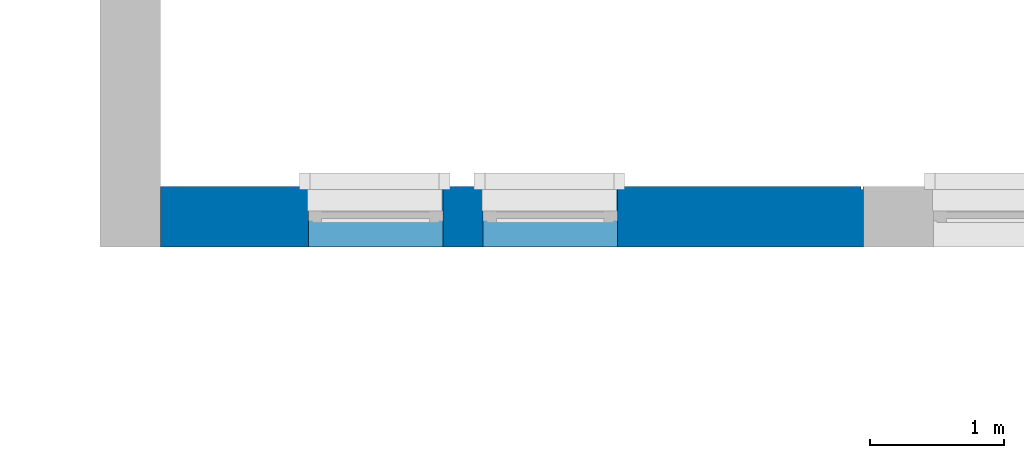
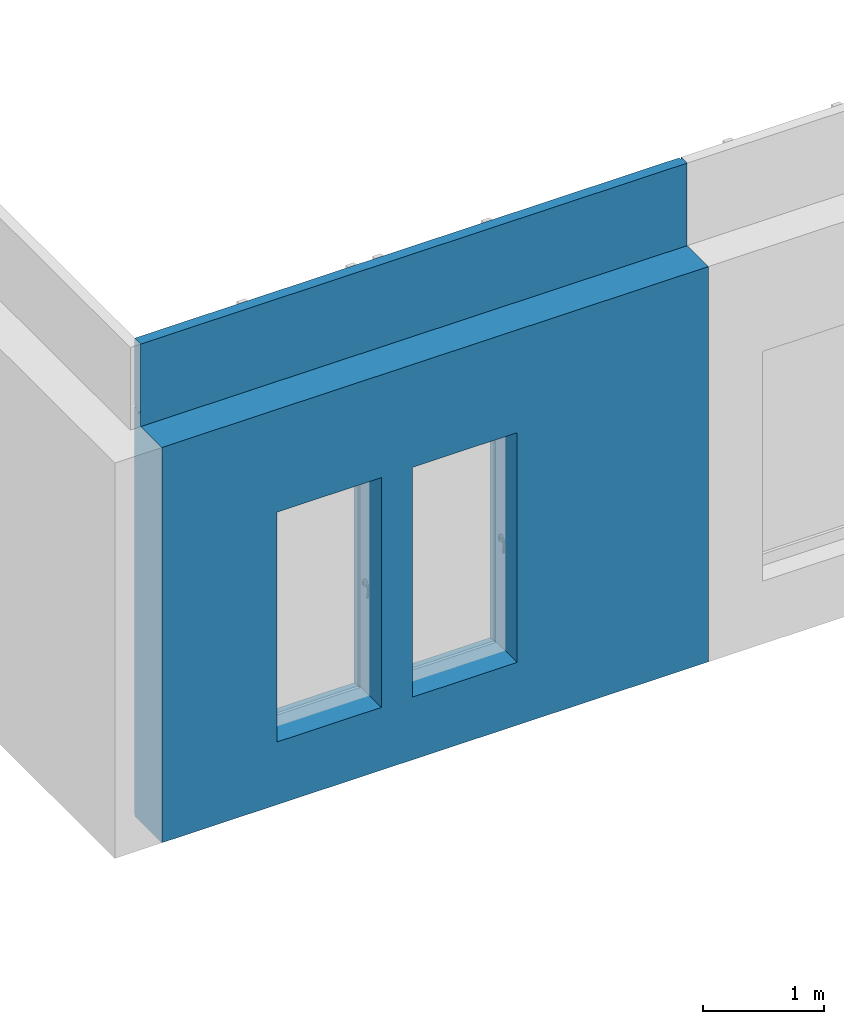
# One storey, part 10 of 33: 1 wall, 6 openings.
"""IFC2X3 building model written with IfcOpenShell, lengths in millimetres."""

from ifc_helpers import new_model, entity, si_unit, converted_unit, derived_unit, direction, frame, frame_2d, origin, origin_2d_with_axis, place, context, subcontext, project, spatial, polyline, rectangle, extrude, clip, bounded_halfspace, faceted_brep, material, layer, layer_set, layer_usage, type_object, element, save


model = new_model("IFC2X3")

# Units and contexts
model_context = context("Model", 3, precision=0.01, world=origin(), true_north=direction((6.12303176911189e-17, 1.0)))
body_context = subcontext(model_context, "Body", "Model", "MODEL_VIEW")
ifc_project = project(units=[si_unit("LENGTHUNIT", "METRE", prefix="MILLI"), si_unit("AREAUNIT", "SQUARE_METRE"), si_unit("VOLUMEUNIT", "CUBIC_METRE"), converted_unit("PLANEANGLEUNIT", "DEGREE", entity("IfcRatioMeasure", 0.0174532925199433), si_unit("PLANEANGLEUNIT", "RADIAN"), dimensions=[0, 0, 0, 0, 0, 0, 0]), si_unit("MASSUNIT", "GRAM", prefix="KILO"), derived_unit("MASSDENSITYUNIT", [(si_unit("MASSUNIT", "GRAM", prefix="KILO"), 1), (si_unit("LENGTHUNIT", "METRE"), -3)]), si_unit("TIMEUNIT", "SECOND"), si_unit("FREQUENCYUNIT", "HERTZ"), si_unit("THERMODYNAMICTEMPERATUREUNIT", "DEGREE_CELSIUS"), derived_unit("THERMALTRANSMITTANCEUNIT", [(si_unit("MASSUNIT", "GRAM", prefix="KILO"), 1), (si_unit("THERMODYNAMICTEMPERATUREUNIT", "KELVIN"), -1), (si_unit("TIMEUNIT", "SECOND"), -3)]), derived_unit("VOLUMETRICFLOWRATEUNIT", [(si_unit("LENGTHUNIT", "METRE"), 3), (si_unit("TIMEUNIT", "SECOND"), -1)]), si_unit("ELECTRICCURRENTUNIT", "AMPERE"), si_unit("ELECTRICVOLTAGEUNIT", "VOLT"), si_unit("POWERUNIT", "WATT"), si_unit("FORCEUNIT", "NEWTON", prefix="KILO"), si_unit("ILLUMINANCEUNIT", "LUX"), si_unit("LUMINOUSFLUXUNIT", "LUMEN"), si_unit("LUMINOUSINTENSITYUNIT", "CANDELA"), derived_unit("USERDEFINED", [(si_unit("MASSUNIT", "GRAM", prefix="KILO"), -1), (si_unit("LENGTHUNIT", "METRE"), -2), (si_unit("TIMEUNIT", "SECOND"), 3), (si_unit("LUMINOUSFLUXUNIT", "LUMEN"), 1)]), derived_unit("LINEARVELOCITYUNIT", [(si_unit("LENGTHUNIT", "METRE"), 1), (si_unit("TIMEUNIT", "SECOND"), -1)]), si_unit("PRESSUREUNIT", "PASCAL"), derived_unit("USERDEFINED", [(si_unit("LENGTHUNIT", "METRE"), -2), (si_unit("MASSUNIT", "GRAM", prefix="KILO"), 1), (si_unit("TIMEUNIT", "SECOND"), -2)])], contexts=[model_context])

# Site, building, storey
site_placement = place(None, origin())
site = spatial("IfcSite", under=ifc_project, at=site_placement, Name="Default", CompositionType="ELEMENT")
building_placement = place(site_placement, origin())
building = spatial("IfcBuilding", under=site, at=building_placement, CompositionType="ELEMENT")
storey_placement = place(building_placement, frame((0.0, 0.0, 4000.0)))
storey = spatial("IfcBuildingStorey", under=building, at=storey_placement, Name="2. KORRUS", CompositionType="ELEMENT", Elevation=4000.0)

# Wall, openings
ifc_material_1 = material(Name="RECKLI 1 173 THUR by Polantis 2016-toon3")
ifc_layer_1 = layer(ifc_material_1, 100.0)
ifc_material_2 = material(Name="Soojusisolatsioon EPS")
ifc_layer_2 = layer(ifc_material_2, 200.0)
ifc_material_3 = material(Name="r/b")
ifc_layer_3 = layer(ifc_material_3, 150.0)
ifc_layer_set = layer_set([ifc_layer_1, ifc_layer_2, ifc_layer_3], Name="Basic Wall:VS-1_toon-b")
ifc_layer_usage = layer_usage(ifc_layer_set, "AXIS2", "NEGATIVE", 225.0)
wall_type = type_object("IfcWallType", Name="Basic Wall:VS-1_toon-b", PredefinedType="STANDARD", material=ifc_layer_set)
wall_placement = place(storey_placement, frame((9650.0, 21725.0517807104, -135.0)))
wall = element("IfcWallStandardCase", 1, at=wall_placement, inside=storey, type_object=wall_type, material=ifc_layer_usage, Name="Basic Wall:VS-1_toon-b", ObjectType="Basic Wall:VS-1_toon-b", context=body_context, shape_type="Clipping", body=[
    clip(clip(extrude(rectangle(XDim=5230.3475962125, YDim=450.000000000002, at=frame_2d((2615.17379810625, -2.55795384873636e-13), x_axis=(-1.0, 0.0))), origin(), (0.0, 0.0, 1.0), 4835.0), bounded_halfspace(frame((0.0, -225.0, 4000.0), z_axis=(0.0, 0.0, 1.0), x_axis=(0.0, 1.0, 0.0)), False, frame((0.0, -225.0, 4000.0)), polyline([(0.0, 0.0), (5230.3475962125, 0.0), (5230.3475962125, 350.0), (0.0, 350.0), (0.0, 0.0)]))), bounded_halfspace(frame((0.0, -225.0, 4000.0), z_axis=(0.0, 0.0, 1.0), x_axis=(0.0, 1.0, 0.0)), False, frame((0.0, -225.0, 4000.0)), polyline([(0.0, 0.0), (5230.3475962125, 0.0), (5230.3475962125, 350.0), (0.0, 350.0), (0.0, 0.0)]))),
])
opening_1_placement = place(wall_placement, origin())
element("IfcOpeningElement", 2, at=opening_1_placement, cuts=wall, Name="Basic Wall:VS-1_toon-b", ObjectType="Opening", context=body_context, shape_type="SweptSolid", body=[
    extrude(rectangle(XDim=3199.99999999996, YDim=3600.0, at=frame_2d((0.0, 0.0), x_axis=(0.0, 1.0))), frame((2900.0, -1749.0, -2265.0), z_axis=(0.0, 1.0, 0.0), x_axis=(-1.0, 0.0, 0.0)), (0.0, 0.0, 1.0), 3048.0),
])
opening_2_placement = place(wall_placement, origin())
element("IfcOpeningElement", 3, at=opening_2_placement, cuts=wall, Name="Basic Wall:VS-1_toon-b", ObjectType="Recess", context=body_context, shape_type="SweptSolid", body=[
    extrude(rectangle(XDim=4265.0, YDim=16.0000000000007, at=origin_2d_with_axis()), frame((5220.0, 205.0, -2132.5), z_axis=(0.0, 1.0, 0.0), x_axis=(0.0, 0.0, 1.0)), (0.0, 0.0, 1.0), 19.9999999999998),
    extrude(rectangle(XDim=4835.0, YDim=16.0000000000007, at=frame_2d((2.27373675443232e-13, 0.0), x_axis=(1.0, 0.0))), frame((5220.0, 205.0, 2417.5), z_axis=(0.0, 1.0, 0.0), x_axis=(0.0, 0.0, 1.0)), (0.0, 0.0, 1.0), 19.9999999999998),
])
opening_3_placement = place(wall_placement, frame((-10100.0, -22175.0517807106, 4.0)))
element("IfcOpeningElement", 4, at=opening_3_placement, cuts=wall, Name="Basic Wall:VS-1_toon-b", ObjectType="Opening", context=body_context, shape_type="Brep", body=[
    faceted_brep([(11850.0, 20.0, 16.0), (11850.0, 0.0, 16.0), (11850.0, 0.0, 0.0), (11850.0, 20.0, 0.0), (4260.0, 20.0, 16.0), (4260.0, 20.0, 0.0), (4260.0, 0.0, 0.0), (4260.0, 0.0, 16.0)], [[[0, 1, 2, 3]], [[4, 5, 6, 7]], [[1, 0, 4, 7]], [[2, 1, 7, 6]], [[3, 2, 6, 5]], [[0, 3, 5, 4]]]),
    faceted_brep([(20.0, 28480.0, 16.0), (20.0, 28480.0, 0.0), (0.0, 28500.0, 0.0), (0.0, 28500.0, 16.0), (20.0, 23740.0, 16.0), (0.0, 23740.0, 16.0), (0.0, 23740.0, 0.0), (20.0, 23740.0, 0.0)], [[[0, 1, 2, 3]], [[4, 5, 6, 7]], [[1, 0, 4, 7]], [[2, 1, 7, 6]], [[3, 2, 6, 5]], [[0, 3, 5, 4]]]),
    faceted_brep([(10080.0, 22380.0517807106, 16.0), (10100.0, 22400.0517807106, 16.0), (10100.0, 22400.0517807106, 0.0), (10080.0, 22380.0517807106, 0.0), (15330.3475962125, 22380.0517807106, 16.0), (15330.3475962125, 22380.0517807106, 0.0), (15330.3475962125, 22400.0517807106, 0.0), (15330.3475962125, 22400.0517807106, 16.0)], [[[0, 1, 2, 3]], [[4, 5, 6, 7]], [[1, 0, 4, 7]], [[2, 1, 7, 6]], [[3, 2, 6, 5]], [[0, 3, 5, 4]]]),
    faceted_brep([(20.0, 28480.0, 16.0), (0.0, 28500.0, 16.0), (0.0, 28500.0, 0.0), (20.0, 28480.0, 0.0), (4360.0, 28480.0, 16.0), (4360.0, 28480.0, 0.0), (4360.0, 28500.0, 0.0), (4360.0, 28500.0, 16.0)], [[[0, 1, 2, 3]], [[4, 5, 6, 7]], [[1, 0, 4, 7]], [[2, 1, 7, 6]], [[3, 2, 6, 5]], [[0, 3, 5, 4]]]),
    faceted_brep([(40380.0, 20.0, 16.0), (40400.0, 0.0, 16.0), (40400.0, 0.0, 0.0), (40380.0, 20.0, 0.0), (35250.0, 20.0, 16.0), (35250.0, 20.0, 0.0), (35250.0, 0.0, 0.0), (35250.0, 0.0, 16.0)], [[[0, 1, 2, 3]], [[4, 5, 6, 7]], [[1, 0, 4, 7]], [[2, 1, 7, 6]], [[3, 2, 6, 5]], [[0, 3, 5, 4]]]),
    faceted_brep([(34420.1035702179, 22380.0517807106, 16.0), (34420.1035702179, 22400.0517807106, 16.0), (34420.1035702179, 22400.0517807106, 0.0), (34420.1035702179, 22380.0517807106, 0.0), (40380.0, 22380.0517807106, 16.0), (40380.0, 22380.0517807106, 0.0), (40400.0, 22400.0517807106, 0.0), (40400.0, 22400.0517807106, 16.0)], [[[0, 1, 2, 3]], [[4, 5, 6, 7]], [[1, 0, 4, 7]], [[2, 1, 7, 6]], [[3, 2, 6, 5]], [[0, 3, 5, 4]]]),
    faceted_brep([(29113.2161487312, 22380.0517807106, 16.0), (29113.2161487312, 22400.0517807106, 16.0), (29113.2161487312, 22400.0517807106, 0.0), (29113.2161487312, 22380.0517807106, 0.0), (34420.1035702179, 22380.0517807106, 16.0), (34420.1035702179, 22380.0517807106, 0.0), (34420.1035702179, 22400.0517807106, 0.0), (34420.1035702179, 22400.0517807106, 16.0)], [[[0, 1, 2, 3]], [[4, 5, 6, 7]], [[1, 0, 4, 7]], [[2, 1, 7, 6]], [[3, 2, 6, 5]], [[0, 3, 5, 4]]]),
    faceted_brep([(10080.0, 28480.0, 16.0), (10100.0, 28500.0, 16.0), (10100.0, 28500.0, 0.0), (10080.0, 28480.0, 0.0), (10080.0, 22380.0517807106, 16.0), (10080.0, 22380.0517807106, 0.0), (10100.0, 22400.0517807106, 0.0), (10100.0, 22400.0517807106, 16.0)], [[[0, 1, 2, 3]], [[4, 5, 6, 7]], [[1, 0, 4, 7]], [[2, 1, 7, 6]], [[3, 2, 6, 5]], [[0, 3, 5, 4]]]),
    faceted_brep([(4260.0, 20.0, 16.0), (4260.0, 0.0, 16.0), (4260.0, 0.0, 0.0), (4260.0, 20.0, 0.0), (0.0, 20.0, 16.0), (0.0, 20.0, 0.0), (0.0, 0.0, 0.0), (0.0, 0.0, 16.0)], [[[0, 1, 2, 3]], [[4, 5, 6, 7]], [[1, 0, 4, 7]], [[2, 1, 7, 6]], [[3, 2, 6, 5]], [[0, 3, 5, 4]]]),
    faceted_brep([(40380.0, 4865.0, 16.0), (40400.0, 4865.0, 16.0), (40400.0, 4865.0, 0.0), (40380.0, 4865.0, 0.0), (40380.0, 20.0, 16.0), (40380.0, 20.0, 0.0), (40400.0, 0.0, 0.0), (40400.0, 0.0, 16.0)], [[[0, 1, 2, 3]], [[4, 5, 6, 7]], [[1, 0, 4, 7]], [[2, 1, 7, 6]], [[3, 2, 6, 5]], [[0, 3, 5, 4]]]),
    faceted_brep([(40380.0, 9093.33000000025, 16.0), (40400.0, 9093.33000000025, 16.0), (40400.0, 9093.33000000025, 0.0), (40380.0, 9093.33000000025, 0.0), (40380.0, 4865.0, 16.0), (40380.0, 4865.0, 0.0), (40400.0, 4865.0, 0.0), (40400.0, 4865.0, 16.0)], [[[0, 1, 2, 3]], [[4, 5, 6, 7]], [[1, 0, 4, 7]], [[2, 1, 7, 6]], [[3, 2, 6, 5]], [[0, 3, 5, 4]]]),
    faceted_brep([(40380.0, 13210.0, 16.0), (40400.0, 13210.0, 16.0), (40400.0, 13210.0, 0.0), (40380.0, 13210.0, 0.0), (40380.0, 9093.33000000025, 16.0), (40380.0, 9093.33000000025, 0.0), (40400.0, 9093.33000000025, 0.0), (40400.0, 9093.33000000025, 16.0)], [[[0, 1, 2, 3]], [[4, 5, 6, 7]], [[1, 0, 4, 7]], [[2, 1, 7, 6]], [[3, 2, 6, 5]], [[0, 3, 5, 4]]]),
    faceted_brep([(40380.0, 16240.0, 16.0), (40400.0, 16240.0, 16.0), (40400.0, 16240.0, 0.0), (40380.0, 16240.0, 0.0), (40380.0, 13210.0, 16.0), (40380.0, 13210.0, 0.0), (40400.0, 13210.0, 0.0), (40400.0, 13210.0, 16.0)], [[[0, 1, 2, 3]], [[4, 5, 6, 7]], [[1, 0, 4, 7]], [[2, 1, 7, 6]], [[3, 2, 6, 5]], [[0, 3, 5, 4]]]),
    faceted_brep([(40380.0, 22380.0517807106, 16.0), (40400.0, 22400.0517807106, 16.0), (40400.0, 22400.0517807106, 0.0), (40380.0, 22380.0517807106, 0.0), (40380.0, 16240.0, 16.0), (40380.0, 16240.0, 0.0), (40400.0, 16240.0, 0.0), (40400.0, 16240.0, 16.0)], [[[0, 1, 2, 3]], [[4, 5, 6, 7]], [[1, 0, 4, 7]], [[2, 1, 7, 6]], [[3, 2, 6, 5]], [[0, 3, 5, 4]]]),
    faceted_brep([(22535.0, 22380.0517807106, 16.0), (22535.0, 22400.0517807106, 16.0), (22535.0, 22400.0517807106, 0.0), (22535.0, 22380.0517807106, 0.0), (29113.2161487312, 22380.0517807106, 16.0), (29113.2161487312, 22380.0517807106, 0.0), (29113.2161487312, 22400.0517807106, 0.0), (29113.2161487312, 22400.0517807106, 16.0)], [[[0, 1, 2, 3]], [[4, 5, 6, 7]], [[1, 0, 4, 7]], [[2, 1, 7, 6]], [[3, 2, 6, 5]], [[0, 3, 5, 4]]]),
    faceted_brep([(18703.3528910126, 22380.0517807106, 16.0), (18703.3528910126, 22400.0517807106, 16.0), (18703.3528910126, 22400.0517807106, 0.0), (18703.3528910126, 22380.0517807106, 0.0), (22535.0, 22380.0517807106, 16.0), (22535.0, 22380.0517807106, 0.0), (22535.0, 22400.0517807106, 0.0), (22535.0, 22400.0517807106, 16.0)], [[[0, 1, 2, 3]], [[4, 5, 6, 7]], [[1, 0, 4, 7]], [[2, 1, 7, 6]], [[3, 2, 6, 5]], [[0, 3, 5, 4]]]),
    faceted_brep([(15330.3475962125, 22380.0517807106, 16.0), (15330.3475962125, 22400.0517807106, 16.0), (15330.3475962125, 22400.0517807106, 0.0), (15330.3475962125, 22380.0517807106, 0.0), (18703.3528910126, 22380.0517807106, 16.0), (18703.3528910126, 22380.0517807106, 0.0), (18703.3528910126, 22400.0517807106, 0.0), (18703.3528910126, 22400.0517807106, 16.0)], [[[0, 1, 2, 3]], [[4, 5, 6, 7]], [[1, 0, 4, 7]], [[2, 1, 7, 6]], [[3, 2, 6, 5]], [[0, 3, 5, 4]]]),
    faceted_brep([(4360.0, 28480.0, 16.0), (4360.0, 28500.0, 16.0), (4360.0, 28500.0, 0.0), (4360.0, 28480.0, 0.0), (10080.0, 28480.0, 16.0), (10080.0, 28480.0, 0.0), (10100.0, 28500.0, 0.0), (10100.0, 28500.0, 16.0)], [[[0, 1, 2, 3]], [[4, 5, 6, 7]], [[1, 0, 4, 7]], [[2, 1, 7, 6]], [[3, 2, 6, 5]], [[0, 3, 5, 4]]]),
    faceted_brep([(20.0, 23740.0, 16.0), (20.0, 23740.0, 0.0), (0.0, 23740.0, 0.0), (0.0, 23740.0, 16.0), (20.0, 16890.0006972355, 16.0), (0.0, 16890.0006972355, 16.0), (0.0, 16890.0006972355, 0.0), (20.0, 16890.0006972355, 0.0)], [[[0, 1, 2, 3]], [[4, 5, 6, 7]], [[1, 0, 4, 7]], [[2, 1, 7, 6]], [[3, 2, 6, 5]], [[0, 3, 5, 4]]]),
    faceted_brep([(20.0, 16890.0006972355, 16.0), (20.0, 16890.0006972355, 0.0), (0.0, 16890.0006972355, 0.0), (0.0, 16890.0006972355, 16.0), (20.0, 13460.0, 16.0), (0.0, 13460.0, 16.0), (0.0, 13460.0, 0.0), (20.0, 13460.0, 0.0)], [[[0, 1, 2, 3]], [[4, 5, 6, 7]], [[1, 0, 4, 7]], [[2, 1, 7, 6]], [[3, 2, 6, 5]], [[0, 3, 5, 4]]]),
])
opening_4_placement = place(wall_placement, origin())
element("IfcOpeningElement", 5, at=opening_4_placement, cuts=wall, Name="Basic Wall:VS-1_toon-b", ObjectType="Opening", context=body_context, shape_type="SweptSolid", body=[
    extrude(rectangle(XDim=15.9999999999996, YDim=7590.0, at=frame_2d((0.0, -5.40900657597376e-13), x_axis=(0.0, 1.0))), frame((-2045.0, -22175.0517807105, 4147.0), z_axis=(0.0, 1.0, 0.0), x_axis=(-1.0, 0.0, 0.0)), (0.0, 0.0, 1.0), 20.0),
    extrude(rectangle(XDim=15.9999999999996, YDim=20.0, at=frame_2d((5.40900657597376e-13, -3.37507799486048e-14), x_axis=(1.0, 0.0))), frame((-10090.0, 1564.94821928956, 4147.0), z_axis=(0.0, 1.0, 0.0), x_axis=(0.0, 0.0, -1.0)), (0.0, 0.0, 1.0), 4660.0),
    extrude(rectangle(XDim=15.9999999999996, YDim=5230.3475962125, at=frame_2d((0.0, 5.40900657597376e-13), x_axis=(0.0, 1.0))), frame((2615.17379810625, 205.0, 4147.0), z_axis=(0.0, 1.0, 0.0), x_axis=(1.0, 0.0, 0.0)), (0.0, 0.0, 1.0), 19.9999999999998),
    extrude(rectangle(XDim=15.9999999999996, YDim=4360.0, at=frame_2d((0.0, 5.40900657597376e-13), x_axis=(0.0, 1.0))), frame((-7920.0, 6304.94821928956, 4147.0), z_axis=(0.0, 1.0, 0.0), x_axis=(1.0, 0.0, 0.0)), (0.0, 0.0, 1.0), 19.9999999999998),
    extrude(rectangle(XDim=15.9999999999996, YDim=5050.0, at=frame_2d((2.27373675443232e-12, 0.0), x_axis=(0.0, 1.0))), frame((27675.0, -22175.0517807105, 4147.0), z_axis=(0.0, 1.0, 0.0), x_axis=(-1.0, 0.0, 0.0)), (0.0, 0.0, 1.0), 20.0),
    extrude(rectangle(XDim=15.9999999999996, YDim=5979.89642978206, at=frame_2d((-2.27373675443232e-12, 0.0), x_axis=(0.0, 1.0))), frame((27310.051785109, 205.0, 4147.0), z_axis=(0.0, 1.0, 0.0), x_axis=(1.0, 0.0, 0.0)), (0.0, 0.0, 1.0), 19.9999999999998),
    extrude(rectangle(XDim=15.9999999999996, YDim=5306.88742148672, at=frame_2d((2.04636307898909e-12, 5.40900657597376e-13), x_axis=(0.0, 1.0))), frame((21666.6598594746, 205.0, 4147.0), z_axis=(0.0, 1.0, 0.0), x_axis=(1.0, 0.0, 0.0)), (0.0, 0.0, 1.0), 19.9999999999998),
    extrude(rectangle(XDim=15.9999999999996, YDim=19.9999999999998, at=frame_2d((0.0, 5.40900657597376e-13), x_axis=(0.0, 1.0))), frame((-10.0, 125.0, 4147.0), z_axis=(0.0, 1.0, 0.0), x_axis=(1.0, 0.0, 0.0)), (0.0, 0.0, 1.0), 6099.94821928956),
    extrude(rectangle(XDim=15.9999999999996, YDim=4160.00000000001, at=frame_2d((0.0, -5.40900657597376e-13), x_axis=(0.0, 1.0))), frame((-7920.0, -22175.0517807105, 4147.0), z_axis=(0.0, 1.0, 0.0), x_axis=(-1.0, 0.0, 0.0)), (0.0, 0.0, 1.0), 20.0),
    extrude(rectangle(XDim=15.9999999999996, YDim=20.0000000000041, at=frame_2d((4.33164615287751e-12, 5.40900657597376e-13), x_axis=(0.0, 1.0))), frame((30290.0, -22175.0517807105, 4147.0), z_axis=(0.0, 1.0, 0.0), x_axis=(1.0, 0.0, 0.0)), (0.0, 0.0, 1.0), 4865.0),
    extrude(rectangle(XDim=15.9999999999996, YDim=20.0000000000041, at=frame_2d((-4.33164615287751e-12, -5.40900657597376e-13), x_axis=(0.0, 1.0))), frame((30290.0, -17310.0517807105, 4147.0), z_axis=(0.0, 1.0, 0.0), x_axis=(1.0, 0.0, 0.0)), (0.0, 0.0, 1.0), 4228.33000000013),
    extrude(rectangle(XDim=15.9999999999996, YDim=20.0000000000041, at=frame_2d((-4.33164615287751e-12, -5.40900657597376e-13), x_axis=(0.0, 1.0))), frame((30290.0, -13081.7217807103, 4147.0), z_axis=(0.0, 1.0, 0.0), x_axis=(1.0, 0.0, 0.0)), (0.0, 0.0, 1.0), 4236.66999997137),
    extrude(rectangle(XDim=15.9999999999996, YDim=20.0000000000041, at=frame_2d((4.33164615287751e-12, 5.40900657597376e-13), x_axis=(0.0, 1.0))), frame((30290.0, -8845.05178073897, 4147.0), z_axis=(0.0, 1.0, 0.0), x_axis=(1.0, 0.0, 0.0)), (0.0, 0.0, 1.0), 2910.00000002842),
    extrude(rectangle(XDim=15.9999999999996, YDim=20.0000000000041, at=frame_2d((-4.33164615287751e-12, 5.40900657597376e-13), x_axis=(0.0, 1.0))), frame((30290.0, -5935.05178071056, 4147.0), z_axis=(0.0, 1.0, 0.0), x_axis=(1.0, 0.0, 0.0)), (0.0, 0.0, 1.0), 6060.05178071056),
    extrude(rectangle(XDim=15.9999999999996, YDim=3831.64710898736, at=frame_2d((1.13686837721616e-12, 5.40900657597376e-13), x_axis=(0.0, 1.0))), frame((10519.1764455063, 205.0, 4147.0), z_axis=(0.0, 1.0, 0.0), x_axis=(1.0, 0.0, 0.0)), (0.0, 0.0, 1.0), 19.9999999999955),
    extrude(rectangle(XDim=15.9999999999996, YDim=3373.00529480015, at=frame_2d((0.0, 5.40900657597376e-13), x_axis=(0.0, 1.0))), frame((6916.85024361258, 205.0, 4147.0), z_axis=(0.0, 1.0, 0.0), x_axis=(1.0, 0.0, 0.0)), (0.0, 0.0, 1.0), 19.9999999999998),
    extrude(rectangle(XDim=15.9999999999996, YDim=5739.99999999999, at=frame_2d((-2.27373675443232e-13, 5.40900657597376e-13), x_axis=(0.0, 1.0))), frame((-2870.0, 6304.94821928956, 4147.0), z_axis=(0.0, 1.0, 0.0), x_axis=(1.0, 0.0, 0.0)), (0.0, 0.0, 1.0), 19.9999999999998),
    extrude(rectangle(XDim=15.9999999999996, YDim=20.0, at=frame_2d((5.40900657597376e-13, -3.37507799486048e-14), x_axis=(1.0, 0.0))), frame((-10090.0, -5285.05108347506, 4147.0), z_axis=(0.0, 1.0, 0.0), x_axis=(0.0, 0.0, -1.0)), (0.0, 0.0, 1.0), 6849.99930276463),
    extrude(rectangle(XDim=15.9999999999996, YDim=20.0, at=frame_2d((5.40900657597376e-13, 3.37507799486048e-14), x_axis=(1.0, 0.0))), frame((-10090.0, -8715.05178073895, 4147.0), z_axis=(0.0, 1.0, 0.0), x_axis=(0.0, 0.0, -1.0)), (0.0, 0.0, 1.0), 3430.00069726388),
    extrude(rectangle(XDim=15.9999999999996, YDim=6578.21614873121, at=frame_2d((0.0, 5.40900657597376e-13), x_axis=(0.0, 1.0))), frame((15724.1080743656, 205.0, 4147.0), z_axis=(0.0, 1.0, 0.0), x_axis=(1.0, 0.0, 0.0)), (0.0, 0.0, 1.0), 19.9999999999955),
    extrude(rectangle(XDim=15.9999999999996, YDim=4110.0, at=frame_2d((1.13686837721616e-12, -5.40900657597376e-13), x_axis=(0.0, 1.0))), frame((3805.0, -22175.0517807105, 4147.0), z_axis=(0.0, 1.0, 0.0), x_axis=(-1.0, 0.0, 0.0)), (0.0, 0.0, 1.0), 19.9999999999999),
    extrude(rectangle(XDim=15.9999999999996, YDim=4600.0, at=frame_2d((-2.27373675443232e-12, -5.40900657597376e-13), x_axis=(0.0, 1.0))), frame((8160.0, -22175.0517807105, 4147.0), z_axis=(0.0, 1.0, 0.0), x_axis=(-1.0, 0.0, 0.0)), (0.0, 0.0, 1.0), 20.0),
    extrude(rectangle(XDim=15.9999999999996, YDim=4600.0, at=frame_2d((2.27373675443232e-12, -5.40900657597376e-13), x_axis=(0.0, 1.0))), frame((12760.0, -22175.0517807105, 4147.0), z_axis=(0.0, 1.0, 0.0), x_axis=(-1.0, 0.0, 0.0)), (0.0, 0.0, 1.0), 20.0),
    extrude(rectangle(XDim=15.9999999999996, YDim=5299.99999999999, at=frame_2d((-2.04636307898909e-12, -5.40900657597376e-13), x_axis=(0.0, 1.0))), frame((17710.0, -22175.0517807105, 4147.0), z_axis=(0.0, 1.0, 0.0), x_axis=(-1.0, 0.0, 0.0)), (0.0, 0.0, 1.0), 20.0),
    extrude(rectangle(XDim=15.9999999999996, YDim=4790.0, at=frame_2d((0.0, -5.40900657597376e-13), x_axis=(0.0, 1.0))), frame((22755.0, -22175.0517807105, 4147.0), z_axis=(0.0, 1.0, 0.0), x_axis=(-1.0, 0.0, 0.0)), (0.0, 0.0, 1.0), 20.0000000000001),
    extrude(rectangle(XDim=15.9999999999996, YDim=20.0, at=frame_2d((5.40900657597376e-13, -3.37507799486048e-14), x_axis=(1.0, 0.0))), frame((-10090.0, -13439.9109855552, 4147.0), z_axis=(0.0, 1.0, 0.0), x_axis=(0.0, 0.0, -1.0)), (0.0, 0.0, 1.0), 4724.85920481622),
    extrude(rectangle(XDim=15.9999999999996, YDim=20.0, at=frame_2d((5.40900657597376e-13, -3.37507799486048e-14), x_axis=(1.0, 0.0))), frame((-10090.0, -22175.0517807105, 4147.0), z_axis=(0.0, 1.0, 0.0), x_axis=(0.0, 0.0, -1.0)), (0.0, 0.0, 1.0), 8735.1407951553),
])
opening_5_placement = place(wall_placement, frame((2400.0, -225.0, 613.057009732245)))
element("IfcOpeningElement", 6, at=opening_5_placement, cuts=wall, Name="Basic Wall:VS-1_toon-b", ObjectType="Opening", context=body_context, shape_type="Brep", body=[
    faceted_brep([(0.0, 0.0, 2346.94299026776), (0.0, 0.0, 21.9429902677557), (1000.0, 0.0, 21.9429902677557), (1000.0, 0.0, 2346.94299026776), (1000.0, 450.0, 2721.94299026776), (1000.0, 450.0, 0.0), (0.0, 450.0, 0.0), (0.0, 450.0, 2721.94299026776), (0.0, 250.0, 2346.94299026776), (0.0, 250.0, 2721.94299026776), (0.0, 325.555118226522, 21.9429902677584), (1000.0, 325.555118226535, 21.9429902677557), (1000.0, 250.0, 2721.94299026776), (1000.0, 250.0, 2346.94299026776)], [[[0, 1, 2, 3]], [[4, 5, 6, 7]], [[0, 8, 9, 7, 6, 10, 1]], [[1, 10, 11, 2]], [[2, 11, 5, 4, 12, 13, 3]], [[3, 13, 8, 0]], [[9, 8, 13, 12]], [[12, 4, 7, 9]], [[6, 5, 11, 10]]]),
])
opening_6_placement = place(wall_placement, frame((1100.0, -225.0, 613.057009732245)))
element("IfcOpeningElement", 7, at=opening_6_placement, cuts=wall, Name="Basic Wall:VS-1_toon-b", ObjectType="Opening", context=body_context, shape_type="Brep", body=[
    faceted_brep([(0.0, 0.0, 2346.94299026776), (0.0, 0.0, 21.9429902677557), (1000.0, 0.0, 21.9429902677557), (1000.0, 0.0, 2346.94299026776), (1000.0, 450.0, 2721.94299026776), (1000.0, 450.0, 0.0), (0.0, 450.0, 0.0), (0.0, 450.0, 2721.94299026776), (0.0, 250.0, 2346.94299026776), (0.0, 250.0, 2721.94299026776), (0.0, 325.555118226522, 21.9429902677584), (1000.0, 325.555118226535, 21.9429902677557), (1000.0, 250.0, 2721.94299026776), (1000.0, 250.0, 2346.94299026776)], [[[0, 1, 2, 3]], [[4, 5, 6, 7]], [[0, 8, 9, 7, 6, 10, 1]], [[1, 10, 11, 2]], [[2, 11, 5, 4, 12, 13, 3]], [[3, 13, 8, 0]], [[9, 8, 13, 12]], [[12, 4, 7, 9]], [[6, 5, 11, 10]]]),
])

save(model, "model.ifc")
